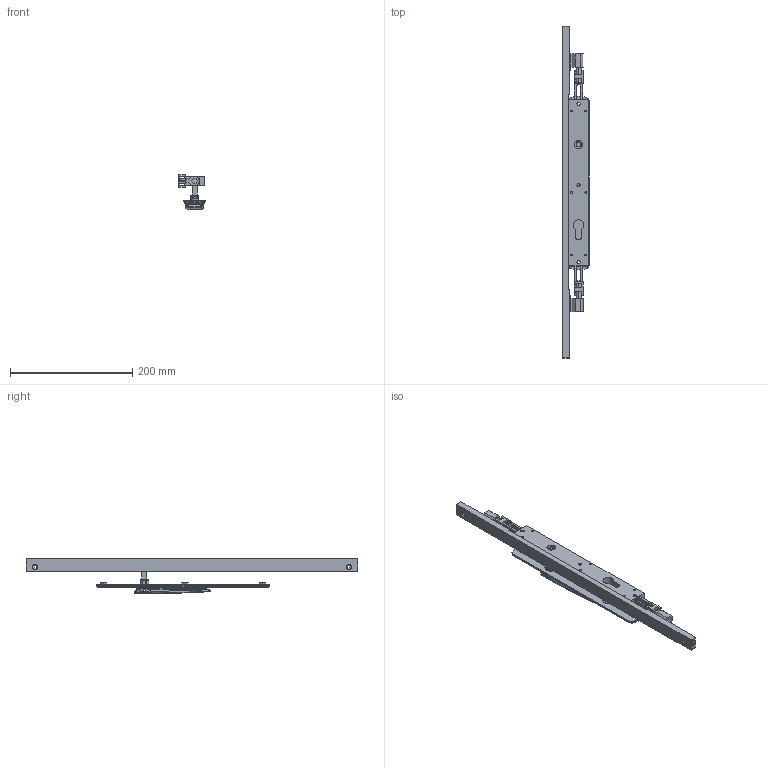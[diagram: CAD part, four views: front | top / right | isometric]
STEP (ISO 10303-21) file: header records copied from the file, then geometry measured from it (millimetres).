
FILE_DESCRIPTION (( 'STEP AP214' ), '1' );
FILE_NAME ('TPL-W-APC-607-L 28Oct2024.STEP', '2024-10-28T03:39:34', ( '' ), ( '' ), 'SwSTEP 2.0', 'SolidWorks 2023', '' );
FILE_SCHEMA (( 'AUTOMOTIVE_DESIGN' ));
Length unit declared in the file: millimetre
Products named in the file (18): Copy of TPLGen2 lock body keyed^Copy of TPLGen2 lock body keyed assembly_TPL-W-APC-107 18Oct2024_Right; Copy of LKC-505 Swing handle zinc - simplified^Copy of TPGen2 handle non-keyed long zinc - simplified_TPL-W-APC-107 18Oct2024; Bolt(2)^TPL-W-APC-107 18Oct2024; Copy of TPLGen2 lock body keyed assembly^TPL-W-APC-107 18Oct2024_Bolts extended - right; Adapter D - simplfied^TPL-W-APC-107 18Oct2024; TPL-W-APC-607-L 28Oct2024; Copy of LKC-584 Pivot body zinc - simplified^Copy of TPGen2 handle non-keyed long zinc - simplified_TPL-W-APC-107 18Oct2024; Copy of TPGen2 handle non-keyed long zinc - simplified^TPL-W-APC-107 18Oct2024_Vertical; Copy of LKC-585 Rotator body zinc^Copy of TPGen2 handle non-keyed long zinc - simplified_TPL-W-APC-107 18Oct2024; Adapter C - simplfied^TPL-W-APC-107 18Oct2024; Copy of COV-115-B Cover B suit TPLGen2 standard range AU with hinge holes^TPL-W-APC-107 18Oct2024_2870mm; Copy of COV-115-A Cover A suit TPLGen2 standard range AU with hinge holes^TPL-W-APC-107 18Oct2024_1335mm; Copy of LKC-583 Escutcheon plate unkeyed 285mm long zinc - simplified^Copy of TPGen2 handle non-keyed long zinc - simplified_TPL-W-APC-107 18Oct2024; Copy of COV-115-C Cover C suit TPLGen2 standard range AU^TPL-W-APC-107 18Oct2024; Copy of Copy of LKC-531 Lock twinpoint transmission rod wood system^TPL-W-APC-107 18Oct2024_Standard Range 2891.7mm; Copy of Copy of Copy of LKC-531 Lock twinpoint transmission rod wood system^TPL-W-APC-107 18Oct2024_Standard Range 2891.7mm; Copy of LKC-586 Spindle square 8mm with M4 hole^Copy of TPGen2 handle non-keyed long zinc - simplified_TPL-W-APC-107 18Oct2024_37mm; Copy of TPLGen2 push rod - simplified^Copy of TPLGen2 lock body keyed assembly_TPL-W-APC-107 18Oct2024_Female thread M10
Assembly tree (15 placements, depth 3):
  Bolt(2)^TPL-W-APC-107 18Oct2024
  TPL-W-APC-607-L 28Oct2024
    Copy of TPLGen2 lock body keyed assembly^TPL-W-APC-107 18Oct2024_Bolts extended - right
      Copy of TPLGen2 lock body keyed^Copy of TPLGen2 lock body keyed assembly_TPL-W-APC-107 18Oct2024_Right
      Copy of TPLGen2 push rod - simplified^Copy of TPLGen2 lock body keyed assembly_TPL-W-APC-107 18Oct2024_Female thread M10  x2
    Copy of TPGen2 handle non-keyed long zinc - simplified^TPL-W-APC-107 18Oct2024_Vertical
      Copy of LKC-583 Escutcheon plate unkeyed 285mm long zinc - simplified^Copy of TPGen2 handle non-keyed long zinc - simplified_TPL-W-APC-107 18Oct2024
      Copy of LKC-505 Swing handle zinc - simplified^Copy of TPGen2 handle non-keyed long zinc - simplified_TPL-W-APC-107 18Oct2024
      Copy of LKC-585 Rotator body zinc^Copy of TPGen2 handle non-keyed long zinc - simplified_TPL-W-APC-107 18Oct2024
      Copy of LKC-586 Spindle square 8mm with M4 hole^Copy of TPGen2 handle non-keyed long zinc - simplified_TPL-W-APC-107 18Oct2024_37mm
      Copy of LKC-584 Pivot body zinc - simplified^Copy of TPGen2 handle non-keyed long zinc - simplified_TPL-W-APC-107 18Oct2024
    Copy of COV-115-C Cover C suit TPLGen2 standard range AU^TPL-W-APC-107 18Oct2024
    Copy of Copy of LKC-531 Lock twinpoint transmission rod wood system^TPL-W-APC-107 18Oct2024_Standard Range 2891.7mm
    Copy of Copy of Copy of LKC-531 Lock twinpoint transmission rod wood system^TPL-W-APC-107 18Oct2024_Standard Range 2891.7mm
    Adapter D - simplfied^TPL-W-APC-107 18Oct2024
    Adapter C - simplfied^TPL-W-APC-107 18Oct2024
  Copy of COV-115-B Cover B suit TPLGen2 standard range AU with hinge holes^TPL-W-APC-107 18Oct2024_2870mm
  Copy of COV-115-A Cover A suit TPLGen2 standard range AU with hinge holes^TPL-W-APC-107 18Oct2024_1335mm
Bounding box: 43.5 x 544 x 57.06 mm (x, y, z)
Volume: 263843.4 mm3; surface area: 129058.8 mm2
Topology: 13 solids, 13 shells, 767 faces, 1854 edges, 1138 vertices
Faces by surface type: plane 263, cylinder 198, bspline 176, cone 70, torus 52, sphere 8
Entity records: 27653 total; most frequent: CARTESIAN_POINT 11253, ORIENTED_EDGE 3516, DIRECTION 3088, EDGE_CURVE 1758, AXIS2_PLACEMENT_3D 1183, VERTEX_POINT 1078, EDGE_LOOP 818, ADVANCED_FACE 732
